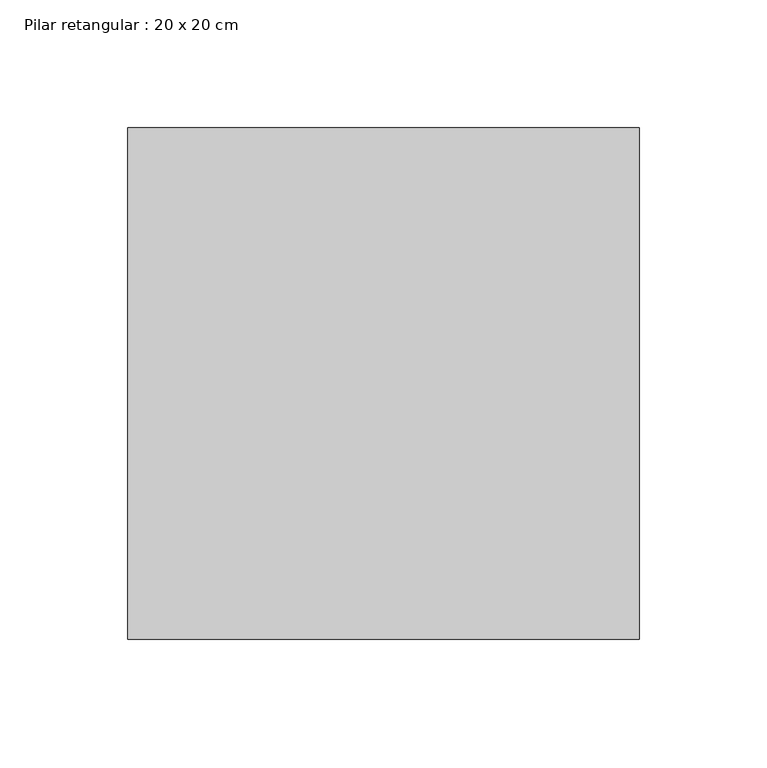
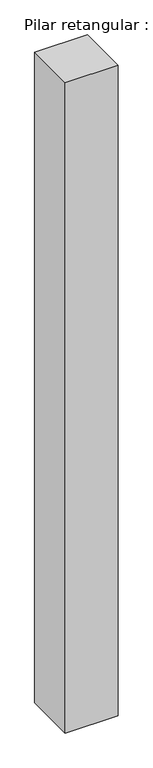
"""IFC4 building model written with IfcOpenShell, lengths in millimetres: column geometry, Pilar retangular : 20 x 20 cm."""

from ifc_helpers import new_model, si_unit, frame, origin, place, context, project, spatial, polyline, outline, extrude, source, transform, mapped, element, save


def pilar_retangular_20_x_20_cm_c52c51c3(model_context):
    return source(origin(), model_context, "Body", "SweptSolid", [
        extrude(outline(polyline([(100.0, 100.0), (100.0, -100.0), (-100.0, -100.0), (-100.0, 100.0), (100.0, 100.0)])), frame((0.0, 0.0, 300.0), z_axis=(0.0, 0.0, 1.0), x_axis=(1.0, 0.0, 0.0)), (0.0, 0.0, 1.0), 2600.0),
    ])


if __name__ == "__main__":
    model = new_model("IFC4")
    model_context = context("Model", 3, world=origin())
    ifc_project = project(units=[si_unit("LENGTHUNIT", "METRE", prefix="MILLI")], contexts=[model_context])
    site = spatial("IfcSite", under=ifc_project)
    building = spatial("IfcBuilding", under=site)
    placement = place(None, origin())
    pilar_retangular_20_x_20_cm_shape = pilar_retangular_20_x_20_cm_c52c51c3(model_context)
    element("IfcColumn", 1, ObjectType="Pilar retangular : 20 x 20 cm", at=placement, inside=building, context=model_context, shape_type="MappedRepresentation", body=[
        mapped(pilar_retangular_20_x_20_cm_shape, transform((0.0, 0.0, 0.0), x_axis=(1.0, 0.0, 0.0), y_axis=(0.0, 1.0, 0.0), z_axis=(0.0, 0.0, 1.0))),
    ])
    save(model, "model.ifc")
